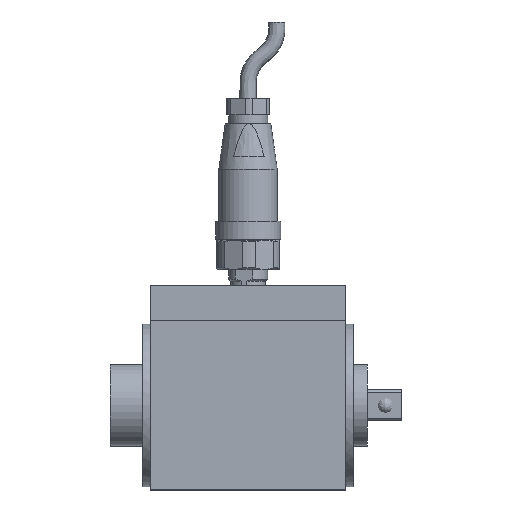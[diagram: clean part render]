
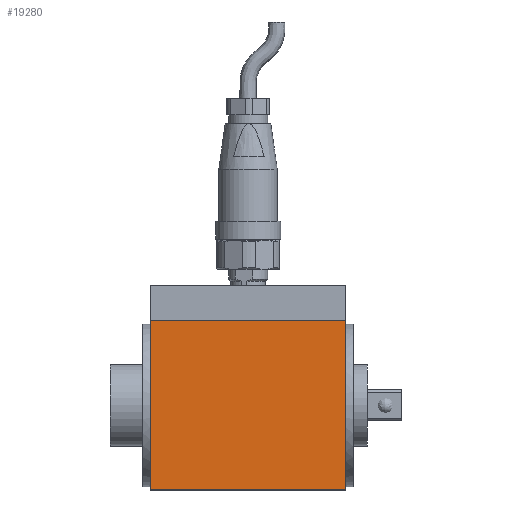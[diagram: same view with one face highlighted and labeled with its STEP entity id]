
A CAD part, front view. The second image highlights one B-rep face of the part: STEP entity #19280.
In plain terms, the highlighted planar face has unit normal (0, -1, 0).
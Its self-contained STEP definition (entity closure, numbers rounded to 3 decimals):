
#302 = CARTESIAN_POINT ( 'NONE',  ( 11.522, -26., 0. ) ) ;
#429 = VERTEX_POINT ( 'NONE', #5313 ) ;
#1700 = LINE ( 'NONE', #1895, #19243 ) ;
#1895 = CARTESIAN_POINT ( 'NONE',  ( 11.522, -26., 26. ) ) ;
#2516 = EDGE_CURVE ( 'NONE', #15720, #17238, #9783, .T. ) ;
#2554 = VECTOR ( 'NONE', #16395, 1000. ) ;
#2945 = EDGE_CURVE ( 'NONE', #5861, #429, #13429, .T. ) ;
#4751 = DIRECTION ( 'NONE',  ( 0., -1., 0. ) ) ;
#5313 = CARTESIAN_POINT ( 'NONE',  ( -48.478, -26., -26. ) ) ;
#5861 = VERTEX_POINT ( 'NONE', #19875 ) ;
#6020 = VECTOR ( 'NONE', #12618, 1000. ) ;
#6138 = CARTESIAN_POINT ( 'NONE',  ( 11.522, -26., 26. ) ) ;
#7306 = CARTESIAN_POINT ( 'NONE',  ( 11.522, -26., -26. ) ) ;
#8733 = EDGE_CURVE ( 'NONE', #17238, #429, #9430, .T. ) ;
#9074 = ORIENTED_EDGE ( 'NONE', *, *, #2516, .F. ) ;
#9430 = LINE ( 'NONE', #14453, #6020 ) ;
#9783 = LINE ( 'NONE', #15906, #2554 ) ;
#10189 = PLANE ( 'NONE',  #14496 ) ;
#10876 = DIRECTION ( 'NONE',  ( 1., 0., 0. ) ) ;
#11082 = ORIENTED_EDGE ( 'NONE', *, *, #17106, .F. ) ;
#12618 = DIRECTION ( 'NONE',  ( -1., 0., 0. ) ) ;
#13429 = LINE ( 'NONE', #19576, #13456 ) ;
#13456 = VECTOR ( 'NONE', #19677, 1000. ) ;
#14453 = CARTESIAN_POINT ( 'NONE',  ( 11.522, -26., -26. ) ) ;
#14496 = AXIS2_PLACEMENT_3D ( 'NONE', #302, #4751, #10876 ) ;
#14629 = EDGE_LOOP ( 'NONE', ( #9074, #11082, #15412, #16650 ) ) ;
#14994 = FACE_OUTER_BOUND ( 'NONE', #14629, .T. ) ;
#15412 = ORIENTED_EDGE ( 'NONE', *, *, #2945, .T. ) ;
#15720 = VERTEX_POINT ( 'NONE', #6138 ) ;
#15906 = CARTESIAN_POINT ( 'NONE',  ( 11.522, -26., 26. ) ) ;
#16395 = DIRECTION ( 'NONE',  ( 0., 0., -1. ) ) ;
#16650 = ORIENTED_EDGE ( 'NONE', *, *, #8733, .F. ) ;
#17106 = EDGE_CURVE ( 'NONE', #5861, #15720, #1700, .T. ) ;
#17238 = VERTEX_POINT ( 'NONE', #7306 ) ;
#18462 = DIRECTION ( 'NONE',  ( 1., 0., 0. ) ) ;
#19243 = VECTOR ( 'NONE', #18462, 1000. ) ;
#19280 = ADVANCED_FACE ( 'NONE', ( #14994 ), #10189, .T. ) ;
#19576 = CARTESIAN_POINT ( 'NONE',  ( -48.478, -26., 0. ) ) ;
#19677 = DIRECTION ( 'NONE',  ( 0., 0., -1. ) ) ;
#19875 = CARTESIAN_POINT ( 'NONE',  ( -48.478, -26., 26. ) ) ;
